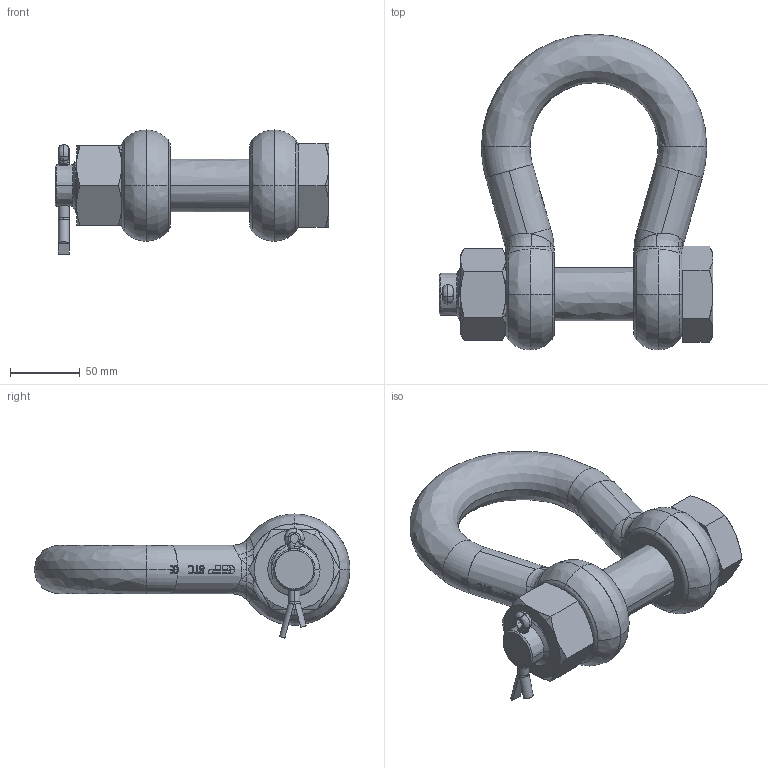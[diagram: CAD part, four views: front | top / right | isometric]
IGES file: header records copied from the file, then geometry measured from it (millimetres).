
Start section: START RECORD GO HERE.
Global section: file name: POGHMB35.igs; native system: Solidworks 2009                             ; preprocessor: Solidworks                 ; author: v.b.; organization: P4; date: 20090826.095309; units: millimetre
Bounding box: 197 x 227 x 89.22 mm (x, y, z)
Surface area: 124208.2 mm2 (no closed solid volume)
Topology: 0 solids, 0 shells, 964 faces, 6154 edges, 6146 vertices
Faces by surface type: bspline 464, plane 302, revolution 198
